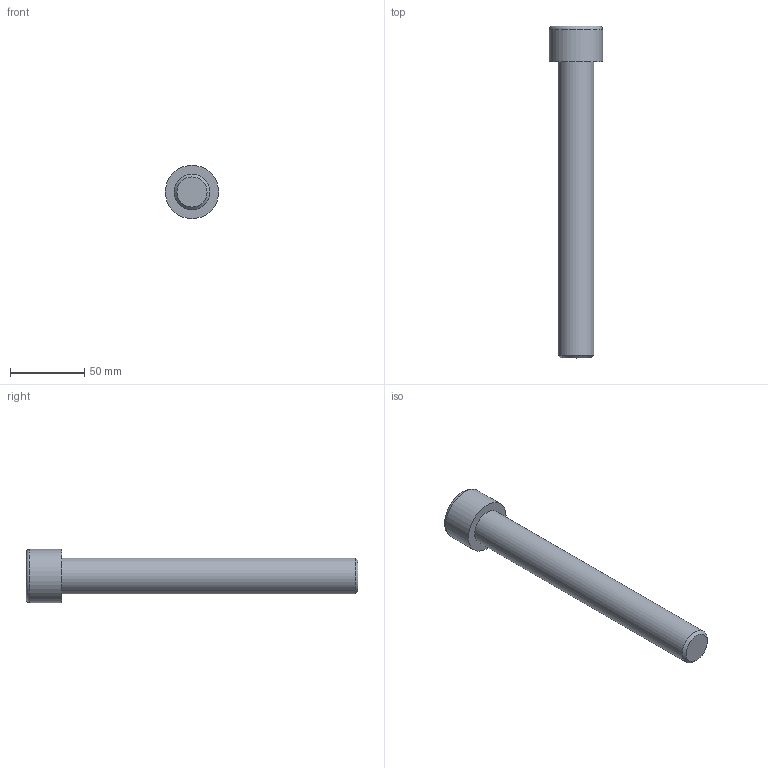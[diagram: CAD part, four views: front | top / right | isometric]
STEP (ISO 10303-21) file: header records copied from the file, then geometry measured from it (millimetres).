
FILE_DESCRIPTION(/* description */ (''),/* implementation_level */ '2;1');
FILE_NAME(/* name */ 'C:\Users\D\Documents\Inventor\各種小物\JIS\JIS B 1176 六角穴付きボルト\M24x200.stp',/* time_stamp */ '2022-05-09T18:59:41+09:00',/* author */ ('D'),/* organization */ (''),/* preprocessor_version */ 'ST-DEVELOPER v18',/* originating_system */ 'Autodesk Inventor 2020',/* authorisation */ '');
FILE_SCHEMA (('AUTOMOTIVE_DESIGN { 1 0 10303 214 3 1 1 }'));
Length unit declared in the file: millimetre
Products named in the file (1): M1.6x2.5
Bounding box: 36 x 224 x 36 mm (x, y, z)
Volume: 110122.3 mm3; surface area: 20499.9 mm2
Topology: 1 solids, 1 shells, 14 faces, 33 edges, 22 vertices
Faces by surface type: plane 9, cone 2, cylinder 2, torus 1
Full cylindrical faces by diameter (mm): 24 x1, 36 x1
Entity records: 435 total; most frequent: CARTESIAN_POINT 83, ORIENTED_EDGE 64, DIRECTION 64, EDGE_CURVE 32, AXIS2_PLACEMENT_3D 24, VERTEX_POINT 22, EDGE_LOOP 16, LINE 16
